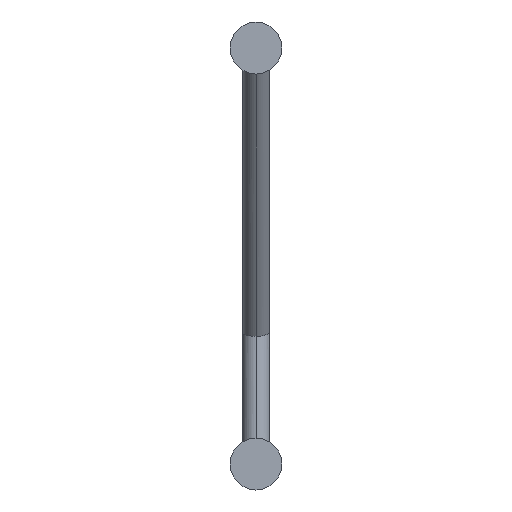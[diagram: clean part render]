
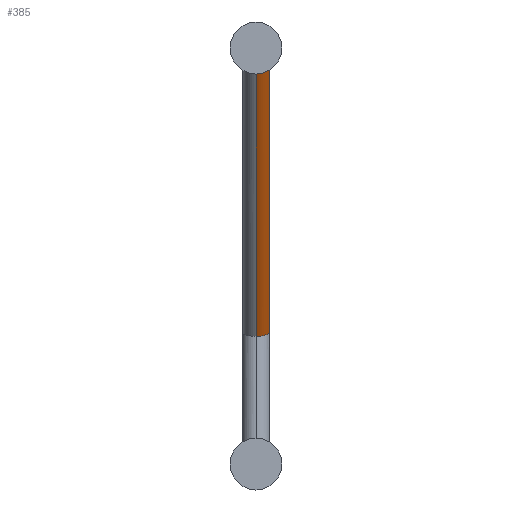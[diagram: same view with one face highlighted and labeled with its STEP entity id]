
A CAD part, front view. The second image highlights one B-rep face of the part: STEP entity #385.
In plain terms, the highlighted cylindrical face has radius 4 mm (diameter 8 mm), a partial arc.
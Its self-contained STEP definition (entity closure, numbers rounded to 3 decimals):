
#34 = CARTESIAN_POINT ( 'NONE',  ( 0., 76.485, 124. ) ) ;
#37 = CARTESIAN_POINT ( 'NONE',  ( 0., 135.75, 39.361 ) ) ;
#42 = CARTESIAN_POINT ( 'NONE',  ( 0., 127.75, 36.839 ) ) ;
#43 = CARTESIAN_POINT ( 'NONE',  ( 4., 74.403, 120. ) ) ;
#48 = CARTESIAN_POINT ( 'NONE',  ( 0., 72.321, 116. ) ) ;
#119 = CARTESIAN_POINT ( 'NONE',  ( 0., 72.321, 116. ) ) ;
#120 = CARTESIAN_POINT ( 'NONE',  ( 4., 73.183, 117.657 ) ) ;
#121 = CARTESIAN_POINT ( 'NONE',  ( 2.343, 72.321, 116. ) ) ;
#124 = CARTESIAN_POINT ( 'NONE',  ( 4., 74.403, 120. ) ) ;
#201 = DIRECTION ( 'NONE',  ( 0., -0.819, -0.574 ) ) ;
#203 = CARTESIAN_POINT ( 'NONE',  ( 0., 131.75, 38.1 ) ) ;
#204 = FACE_OUTER_BOUND ( 'NONE', #468, .T. ) ;
#205 = CYLINDRICAL_SURFACE ( 'NONE', #1166, 4. ) ;
#207 = DIRECTION ( 'NONE',  ( 0., -0.574, 0.819 ) ) ;
#309 = EDGE_CURVE ( 'NONE', #552, #545, #649, .T. ) ;
#314 = EDGE_CURVE ( 'NONE', #827, #546, #1268, .T. ) ;
#346 = EDGE_CURVE ( 'NONE', #552, #553, #1253, .T. ) ;
#349 = EDGE_CURVE ( 'NONE', #553, #827, #715, .T. ) ;
#385 = ADVANCED_FACE ( 'NONE', ( #204 ), #205, .T. ) ;
#399 = EDGE_CURVE ( 'NONE', #546, #545, #1260, .T. ) ;
#468 = EDGE_LOOP ( 'NONE', ( #619, #623, #625, #624, #627 ) ) ;
#545 = VERTEX_POINT ( 'NONE', #48 ) ;
#546 = VERTEX_POINT ( 'NONE', #43 ) ;
#552 = VERTEX_POINT ( 'NONE', #42 ) ;
#553 = VERTEX_POINT ( 'NONE', #37 ) ;
#619 = ORIENTED_EDGE ( 'NONE', *, *, #346, .T. ) ;
#623 = ORIENTED_EDGE ( 'NONE', *, *, #349, .T. ) ;
#624 = ORIENTED_EDGE ( 'NONE', *, *, #399, .T. ) ;
#625 = ORIENTED_EDGE ( 'NONE', *, *, #314, .T. ) ;
#627 = ORIENTED_EDGE ( 'NONE', *, *, #309, .F. ) ;
#649 = LINE ( 'NONE', #658, #1225 ) ;
#658 = CARTESIAN_POINT ( 'NONE',  ( 0., 128.473, 35.806 ) ) ;
#659 = DIRECTION ( 'NONE',  ( 0., -0.574, 0.819 ) ) ;
#713 = DIRECTION ( 'NONE',  ( 0., -0.574, 0.819 ) ) ;
#714 = CARTESIAN_POINT ( 'NONE',  ( 0., 135.027, 40.394 ) ) ;
#715 = LINE ( 'NONE', #714, #1119 ) ;
#722 = CARTESIAN_POINT ( 'NONE',  ( 0., 135.75, 39.361 ) ) ;
#723 = CARTESIAN_POINT ( 'NONE',  ( 8., 135.75, 39.361 ) ) ;
#728 = CARTESIAN_POINT ( 'NONE',  ( 0., 127.75, 36.839 ) ) ;
#729 = CARTESIAN_POINT ( 'NONE',  ( 8., 127.75, 36.839 ) ) ;
#827 = VERTEX_POINT ( 'NONE', #34 ) ;
#848 = CARTESIAN_POINT ( 'NONE',  ( 4., 74.403, 120. ) ) ;
#872 = CARTESIAN_POINT ( 'NONE',  ( 2.343, 76.485, 124. ) ) ;
#892 = CARTESIAN_POINT ( 'NONE',  ( 4., 75.623, 122.343 ) ) ;
#1088 = CARTESIAN_POINT ( 'NONE',  ( 0., 76.485, 124. ) ) ;
#1119 = VECTOR ( 'NONE', #713, 1000. ) ;
#1166 = AXIS2_PLACEMENT_3D ( 'NONE', #203, #207, #201 ) ;
#1225 = VECTOR ( 'NONE', #659, 1000. ) ;
#1253 =( BOUNDED_CURVE ( )  B_SPLINE_CURVE ( 3, ( #728, #729, #723, #722 ),
 .UNSPECIFIED., .F., .T. ) 
 B_SPLINE_CURVE_WITH_KNOTS ( ( 4, 4 ),
 ( 0., 3.142 ),
 .UNSPECIFIED. ) 
 CURVE ( )  GEOMETRIC_REPRESENTATION_ITEM ( )  RATIONAL_B_SPLINE_CURVE ( ( 1., 0.333, 0.333, 1. ) ) 
 REPRESENTATION_ITEM ( '' )  );
#1260 =( BOUNDED_CURVE ( )  B_SPLINE_CURVE ( 3, ( #124, #120, #121, #119 ),
 .UNSPECIFIED., .F., .T. ) 
 B_SPLINE_CURVE_WITH_KNOTS ( ( 4, 4 ),
 ( 1.571, 3.142 ),
 .UNSPECIFIED. ) 
 CURVE ( )  GEOMETRIC_REPRESENTATION_ITEM ( )  RATIONAL_B_SPLINE_CURVE ( ( 1., 0.805, 0.805, 1. ) ) 
 REPRESENTATION_ITEM ( '' )  );
#1268 =( BOUNDED_CURVE ( )  B_SPLINE_CURVE ( 3, ( #1088, #872, #892, #848 ),
 .UNSPECIFIED., .F., .T. ) 
 B_SPLINE_CURVE_WITH_KNOTS ( ( 4, 4 ),
 ( 0., 1.571 ),
 .UNSPECIFIED. ) 
 CURVE ( )  GEOMETRIC_REPRESENTATION_ITEM ( )  RATIONAL_B_SPLINE_CURVE ( ( 1., 0.805, 0.805, 1. ) ) 
 REPRESENTATION_ITEM ( '' )  );
